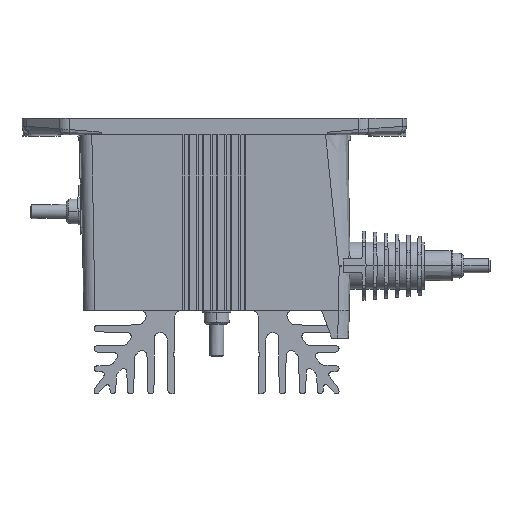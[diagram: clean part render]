
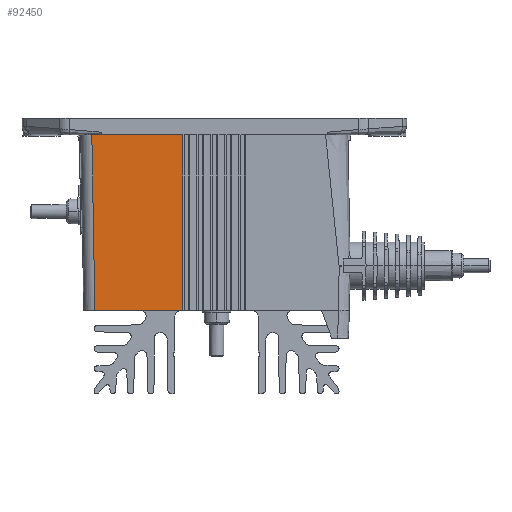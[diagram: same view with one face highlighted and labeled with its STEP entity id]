
A CAD part, left-side view. The second image highlights one B-rep face of the part: STEP entity #92450.
In plain terms, the highlighted planar face has unit normal (-1, 0, -0.018).
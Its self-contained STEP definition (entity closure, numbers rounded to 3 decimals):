
#9270=CARTESIAN_POINT('',(-29.918,41.918,-25.));
#9280=VERTEX_POINT('',#9270);
#9310=CARTESIAN_POINT('',(-29.918,0.,-25.));
#9320=DIRECTION('',(0.,1.,0.));
#9330=VECTOR('',#9320,1.);
#9340=LINE('',#9310,#9330);
#9350=CARTESIAN_POINT('',(-29.918,10.284,-25.));
#9360=VERTEX_POINT('',#9350);
#9370=EDGE_CURVE('',#9360,#9280,#9340,.T.);
#31870=CARTESIAN_POINT('',(-31.,0.,37.));
#31880=DIRECTION('',(1.,0.,0.017));
#31890=DIRECTION('',(0.,-1.,0.));
#31900=AXIS2_PLACEMENT_3D('',#31870,#31880,#31890);
#31910=PLANE('',#31900);
#88420=CARTESIAN_POINT('',(-30.354,10.284,0.));
#88430=DIRECTION('',(-0.017,0.,
1.));
#88440=VECTOR('',#88430,1.);
#88450=LINE('',#88420,#88440);
#88460=CARTESIAN_POINT('',(-31.017,10.284,38.));
#88470=VERTEX_POINT('',#88460);
#88480=EDGE_CURVE('',#9360,#88470,#88450,.T.);
#92270=ORIENTED_EDGE('',*,*,#9370,.F.);
#92280=CARTESIAN_POINT('',(-30.388,42.388,
1.93));
#92290=DIRECTION('',(-0.017,0.017,
1.));
#92300=VECTOR('',#92290,1.);
#92310=LINE('',#92280,#92300);
#92320=CARTESIAN_POINT('',(-31.017,43.018,38.));
#92330=VERTEX_POINT('',#92320);
#92340=EDGE_CURVE('',#9280,#92330,#92310,.T.);
#92350=ORIENTED_EDGE('',*,*,#92340,.F.);
#92360=CARTESIAN_POINT('',(-31.017,0.,38.));
#92370=DIRECTION('',(0.,1.,0.));
#92380=VECTOR('',#92370,1.);
#92390=LINE('',#92360,#92380);
#92400=EDGE_CURVE('',#88470,#92330,#92390,.T.);
#92410=ORIENTED_EDGE('',*,*,#92400,.T.);
#92420=ORIENTED_EDGE('',*,*,#88480,.T.);
#92430=EDGE_LOOP('',(#92420,#92410,#92350,#92270));
#92440=FACE_OUTER_BOUND('',#92430,.T.);
#92450=ADVANCED_FACE('',(#92440),#31910,.F.);
